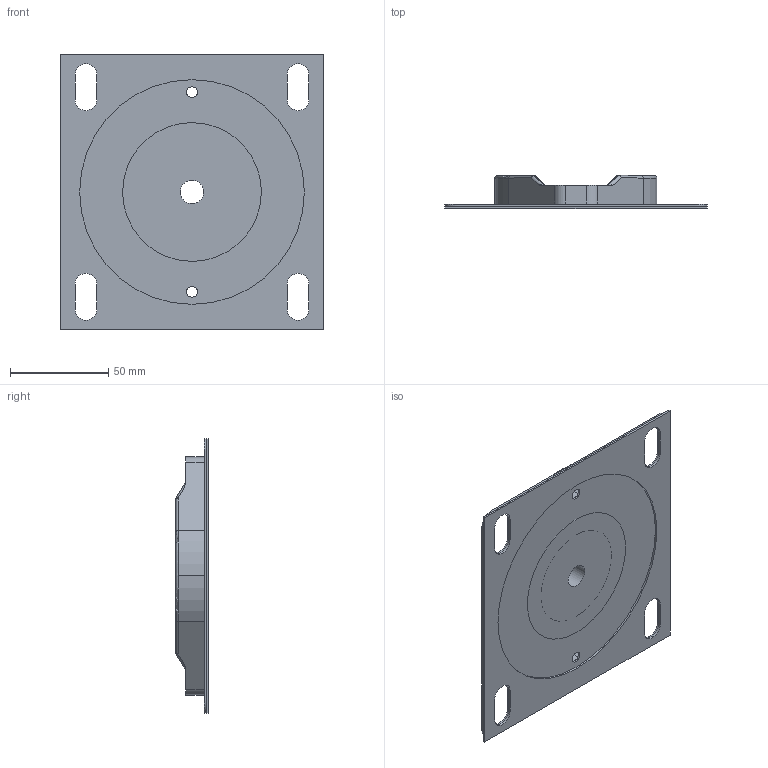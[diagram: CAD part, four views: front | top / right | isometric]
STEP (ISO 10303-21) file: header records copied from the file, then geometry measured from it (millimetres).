
FILE_DESCRIPTION (( 'STEP AP203' ), '1' );
FILE_NAME ('SLF-008T.STEP', '2014-10-29T19:53:09', ( '' ), ( '' ), 'SwSTEP 2.0', 'SolidWorks 2014', '' );
FILE_SCHEMA (( 'CONFIG_CONTROL_DESIGN' ));
Length unit declared in the file: inch
Products named in the file (1): SLF-008T
Bounding box: 133.35 x 16.64 x 139.7 mm (x, y, z)
Surface area: 68535.6 mm2 (no closed solid volume)
Topology: 0 solids, 4 shells, 148 faces, 403 edges, 254 vertices
Faces by surface type: cylinder 74, plane 51, bspline 8, torus 7, cone 4, sphere 4
Entity records: 4969 total; most frequent: CARTESIAN_POINT 1122, DIRECTION 818, ORIENTED_EDGE 753, EDGE_CURVE 399, AXIS2_PLACEMENT_3D 302, VERTEX_POINT 254, LINE 214, VECTOR 214
